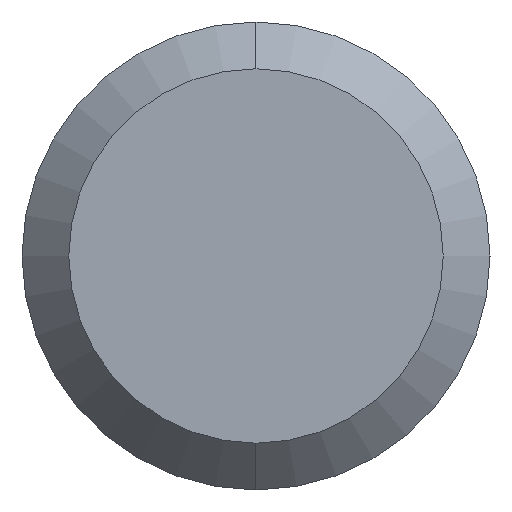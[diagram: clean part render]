
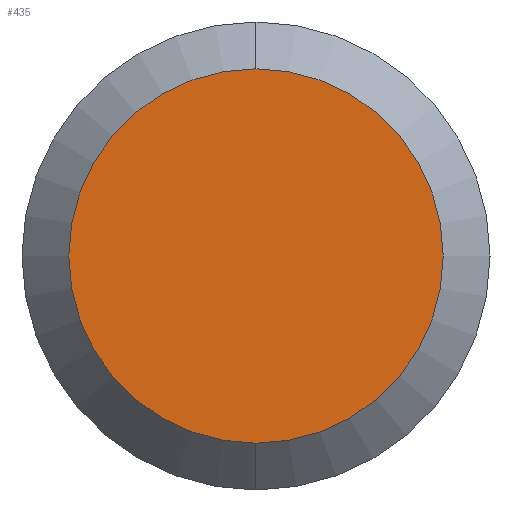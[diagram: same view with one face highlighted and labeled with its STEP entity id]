
A CAD part, left-side view. The second image highlights one B-rep face of the part: STEP entity #435.
In plain terms, the highlighted planar face has unit normal (-1, 0, 0).
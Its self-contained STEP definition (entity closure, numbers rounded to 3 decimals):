
#69 = CARTESIAN_POINT ( 'NONE',  ( 0., 0., 1.6 ) ) ;
#79 = DIRECTION ( 'NONE',  ( -1., 0., 0. ) ) ;
#93 = DIRECTION ( 'NONE',  ( 0., 0., -1. ) ) ;
#103 = VERTEX_POINT ( 'NONE', #69 ) ;
#119 = FACE_OUTER_BOUND ( 'NONE', #479, .T. ) ;
#142 = DIRECTION ( 'NONE',  ( 1., 0., 0. ) ) ;
#185 = CIRCLE ( 'NONE', #462, 1.6 ) ;
#201 = EDGE_CURVE ( 'NONE', #103, #464, #185, .T. ) ;
#202 = DIRECTION ( 'NONE',  ( 0., 0., 1. ) ) ;
#209 = DIRECTION ( 'NONE',  ( 0., 0., 1. ) ) ;
#232 = AXIS2_PLACEMENT_3D ( 'NONE', #442, #142, #93 ) ;
#255 = PLANE ( 'NONE',  #232 ) ;
#317 = AXIS2_PLACEMENT_3D ( 'NONE', #319, #432, #209 ) ;
#319 = CARTESIAN_POINT ( 'NONE',  ( 0., 0., 0. ) ) ;
#348 = CARTESIAN_POINT ( 'NONE',  ( 0., 0., 0. ) ) ;
#365 = CARTESIAN_POINT ( 'NONE',  ( 0., 0., -1.6 ) ) ;
#367 = ORIENTED_EDGE ( 'NONE', *, *, #201, .T. ) ;
#385 = EDGE_CURVE ( 'NONE', #464, #103, #452, .T. ) ;
#413 = ORIENTED_EDGE ( 'NONE', *, *, #385, .T. ) ;
#432 = DIRECTION ( 'NONE',  ( -1., 0., 0. ) ) ;
#435 = ADVANCED_FACE ( 'NONE', ( #119 ), #255, .F. ) ;
#442 = CARTESIAN_POINT ( 'NONE',  ( 0., 0., 0. ) ) ;
#452 = CIRCLE ( 'NONE', #317, 1.6 ) ;
#462 = AXIS2_PLACEMENT_3D ( 'NONE', #348, #79, #202 ) ;
#464 = VERTEX_POINT ( 'NONE', #365 ) ;
#479 = EDGE_LOOP ( 'NONE', ( #413, #367 ) ) ;
